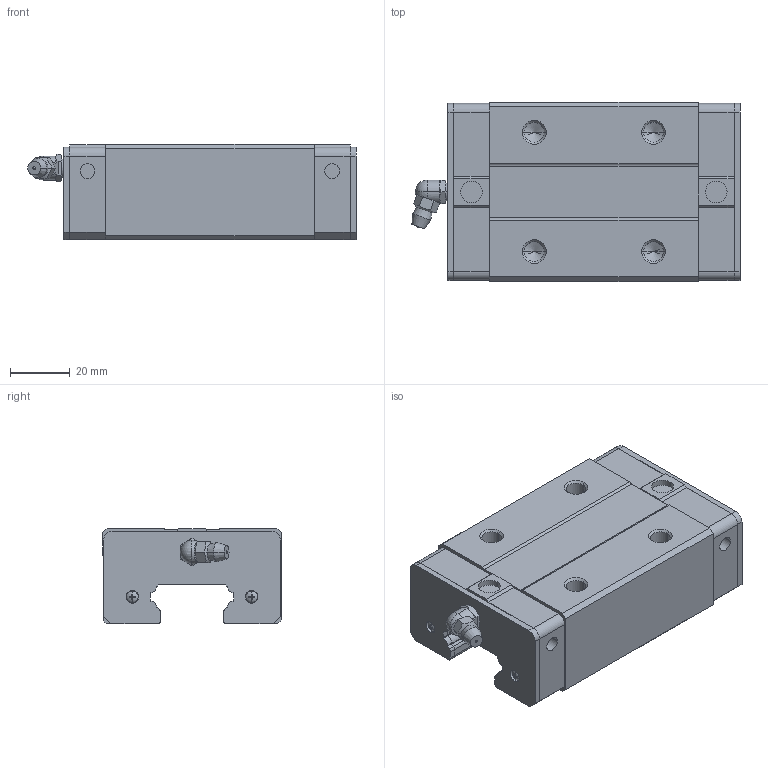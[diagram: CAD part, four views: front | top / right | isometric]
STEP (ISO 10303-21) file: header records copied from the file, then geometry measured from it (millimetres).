
FILE_DESCRIPTION(('starvars output'),'2;1');
FILE_NAME('cv20190609225448000174139.stp','22:54:48 2019/06/09',( 'Thomas Industrial Network Germany GmbH'),( 'Thomas Industrial Network Germany GmbH'),'unknown preprocess','ACIS' ,'unknown authorization');
FILE_SCHEMA(('CONFIG_CONTROL_DESIGN {UNKNOWN IMPLEMENTATION LEVEL}'));
Length unit declared in the file: millimetre
Products named in the file (10): PRODUCT_ID_1; PRODUCT_ID_2; PRODUCT_ID_3; PRODUCT_ID_4; PRODUCT_ID_5; PRODUCT_ID_6; PRODUCT_ID_7; PRODUCT_ID_8; PRODUCT_ID_9; PRODUCT_ID_10
Bounding box: 110.1 x 60 x 32 mm (x, y, z)
Volume: 151997.7 mm3; surface area: 38880.9 mm2
Topology: 10 solids, 10 shells, 415 faces, 1070 edges, 684 vertices
Faces by surface type: plane 204, cylinder 135, cone 64, sphere 12
Entity records: 12272 total; most frequent: ORIENTED_EDGE 2116, CARTESIAN_POINT 2002, DIRECTION 1807, EDGE_CURVE 1058, VERTEX_POINT 684, AXIS2_PLACEMENT_3D 615, VECTOR 577, LINE 577
